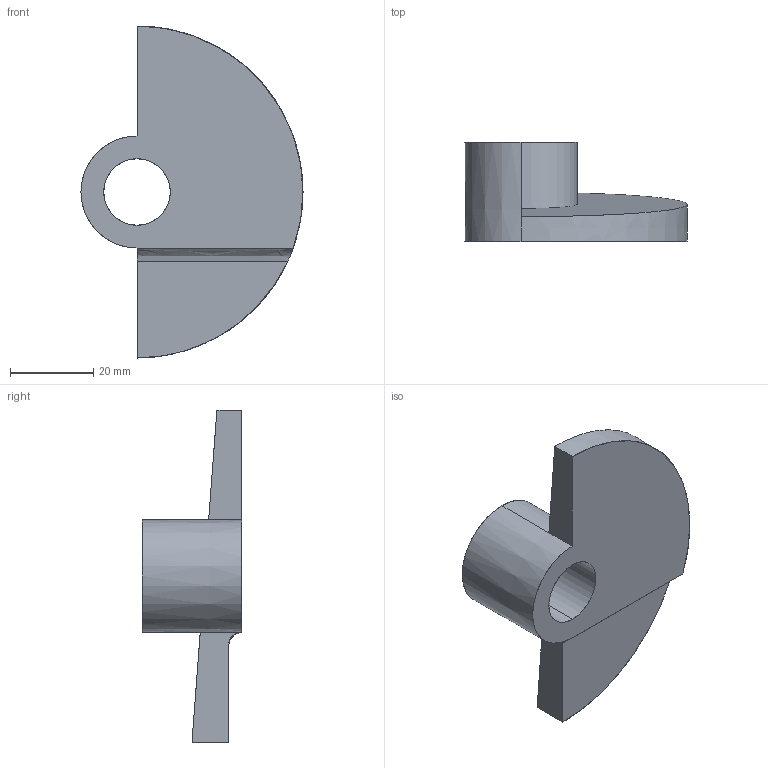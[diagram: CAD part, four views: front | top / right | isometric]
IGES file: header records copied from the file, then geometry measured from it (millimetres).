
Start section: SolidWorks IGES file using analytic representation for surfaces
Global section: file name: C:\Documents and Settings\IANO\Desktop\Temp File\Process pending\EXISTING\36820_v2\36820_v2_20170629_IGES\36820.W0116.igs; native system: SolidWorks 2009; preprocessor: SolidWorks 2009; author: IANO; date: 170627.113952; units: millimetre
Bounding box: 53.5 x 24 x 80 mm (x, y, z)
Surface area: 9502.9 mm2 (no closed solid volume)
Topology: 0 solids, 0 shells, 12 faces, 273 edges, 273 vertices
Faces by surface type: revolution 6, bspline 6
